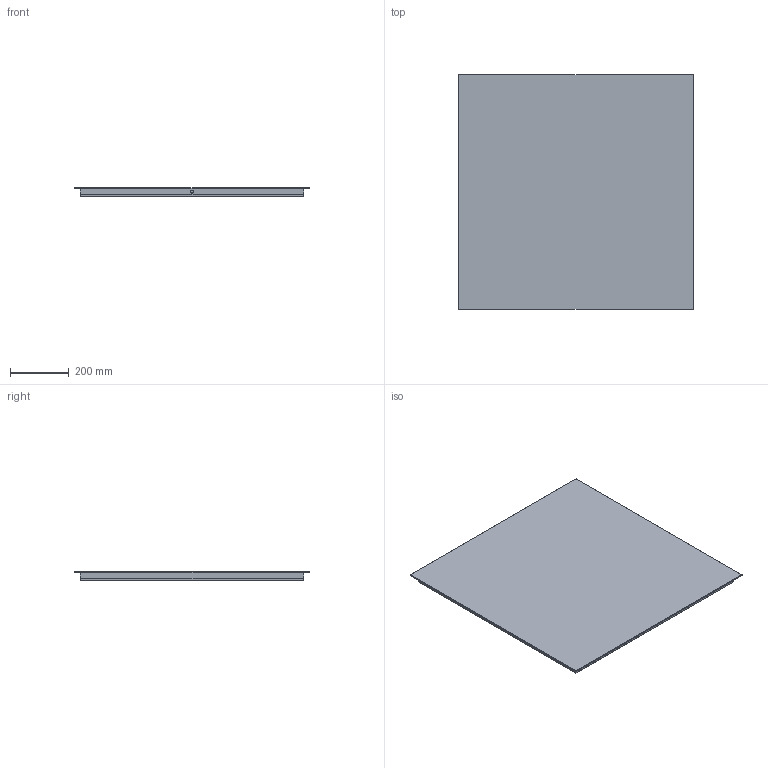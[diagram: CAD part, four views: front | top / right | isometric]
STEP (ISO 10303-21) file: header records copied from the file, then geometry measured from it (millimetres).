
FILE_DESCRIPTION (( 'STEP AP203' ), '1' );
FILE_NAME ('SPIEGEL MODEL 12 80CM.STEP', '2016-07-14T09:42:23', ( '' ), ( '' ), 'SwSTEP 2.0', 'SolidWorks 2016', '' );
FILE_SCHEMA (( 'CONFIG_CONTROL_DESIGN' ));
Length unit declared in the file: millimetre
Products named in the file (1): SPIEGEL MODEL 12 80CM
Bounding box: 800 x 800 x 30 mm (x, y, z)
Volume: 3704400.7 mm3; surface area: 1448320.6 mm2
Topology: 1 solids, 1 shells, 53 faces, 114 edges, 68 vertices
Faces by surface type: plane 47, cylinder 6
Entity records: 1469 total; most frequent: CARTESIAN_POINT 236, DIRECTION 234, ORIENTED_EDGE 228, EDGE_CURVE 114, VECTOR 102, LINE 102, VERTEX_POINT 68, AXIS2_PLACEMENT_3D 66
